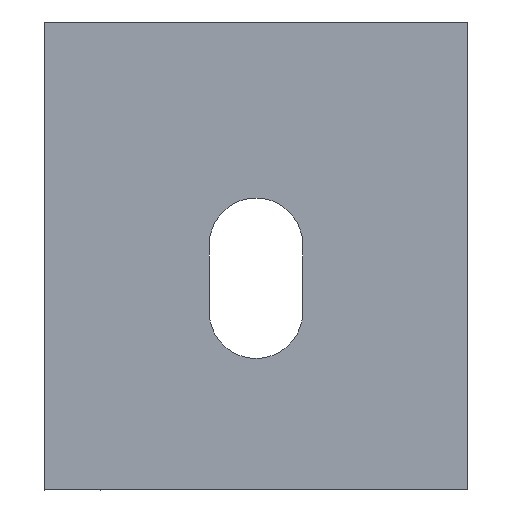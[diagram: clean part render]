
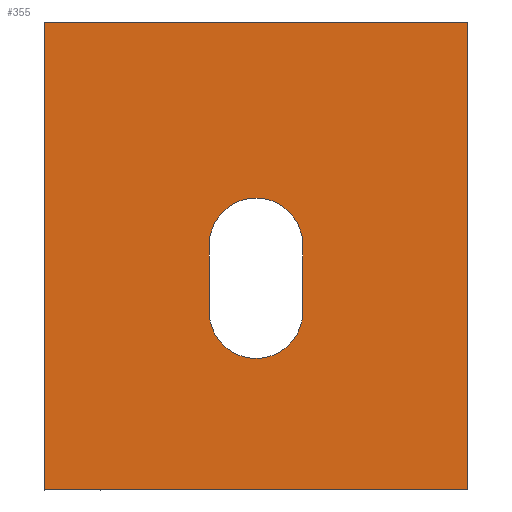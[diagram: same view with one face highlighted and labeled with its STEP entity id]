
A CAD part, left-side view. The second image highlights one B-rep face of the part: STEP entity #355.
In plain terms, the highlighted planar face has unit normal (-1, 0, 0).
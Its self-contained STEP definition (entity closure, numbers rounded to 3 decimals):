
#3 = CARTESIAN_POINT ( 'NONE',  ( -5., -33., 0. ) ) ;
#5 = DIRECTION ( 'NONE',  ( 1., 0., 0. ) ) ;
#8 = EDGE_CURVE ( 'NONE', #860, #615, #790, .T. ) ;
#28 = VERTEX_POINT ( 'NONE', #158 ) ;
#41 = EDGE_CURVE ( 'NONE', #667, #297, #75, .T. ) ;
#74 = DIRECTION ( 'NONE',  ( 1., 0., 0. ) ) ;
#75 = LINE ( 'NONE', #573, #510 ) ;
#80 = CARTESIAN_POINT ( 'NONE',  ( -5., -9.8, -21. ) ) ;
#86 = CARTESIAN_POINT ( 'NONE',  ( -5., -9.8, -15. ) ) ;
#92 = FACE_BOUND ( 'NONE', #646, .T. ) ;
#97 = CARTESIAN_POINT ( 'NONE',  ( -5., -33., 5. ) ) ;
#101 = EDGE_LOOP ( 'NONE', ( #695, #350, #113, #803 ) ) ;
#107 = DIRECTION ( 'NONE',  ( 0., -1., 0. ) ) ;
#113 = ORIENTED_EDGE ( 'NONE', *, *, #843, .T. ) ;
#148 = LINE ( 'NONE', #266, #742 ) ;
#150 = DIRECTION ( 'NONE',  ( 0., 0., -1. ) ) ;
#155 = CARTESIAN_POINT ( 'NONE',  ( -5., -18.2, -21. ) ) ;
#158 = CARTESIAN_POINT ( 'NONE',  ( -5., 5., 5. ) ) ;
#159 = EDGE_CURVE ( 'NONE', #28, #624, #466, .T. ) ;
#161 = EDGE_CURVE ( 'NONE', #222, #639, #252, .T. ) ;
#222 = VERTEX_POINT ( 'NONE', #613 ) ;
#230 = DIRECTION ( 'NONE',  ( 0., -1., 0. ) ) ;
#252 = LINE ( 'NONE', #661, #277 ) ;
#266 = CARTESIAN_POINT ( 'NONE',  ( -5., -9.8, -21. ) ) ;
#277 = VECTOR ( 'NONE', #601, 1000. ) ;
#289 = VECTOR ( 'NONE', #107, 1000. ) ;
#297 = VERTEX_POINT ( 'NONE', #546 ) ;
#314 = DIRECTION ( 'NONE',  ( 0., 0., -1. ) ) ;
#324 = EDGE_CURVE ( 'NONE', #615, #772, #148, .T. ) ;
#338 = AXIS2_PLACEMENT_3D ( 'NONE', #493, #74, #570 ) ;
#350 = ORIENTED_EDGE ( 'NONE', *, *, #159, .F. ) ;
#355 = ADVANCED_FACE ( 'NONE', ( #92, #798 ), #865, .F. ) ;
#357 = DIRECTION ( 'NONE',  ( 1., 0., 0. ) ) ;
#364 = CARTESIAN_POINT ( 'NONE',  ( -5., -14., -21. ) ) ;
#372 = AXIS2_PLACEMENT_3D ( 'NONE', #364, #506, #513 ) ;
#373 = VECTOR ( 'NONE', #422, 1000. ) ;
#390 = CARTESIAN_POINT ( 'NONE',  ( -5., -14., -25.2 ) ) ;
#394 = ORIENTED_EDGE ( 'NONE', *, *, #324, .T. ) ;
#403 = ORIENTED_EDGE ( 'NONE', *, *, #8, .T. ) ;
#405 = DIRECTION ( 'NONE',  ( 0., 0., -1. ) ) ;
#422 = DIRECTION ( 'NONE',  ( 0., 0., 1. ) ) ;
#427 = CARTESIAN_POINT ( 'NONE',  ( -5., -33., 0. ) ) ;
#445 = ORIENTED_EDGE ( 'NONE', *, *, #563, .T. ) ;
#456 = CARTESIAN_POINT ( 'NONE',  ( -5., 5., -37. ) ) ;
#466 = LINE ( 'NONE', #97, #289 ) ;
#492 = ORIENTED_EDGE ( 'NONE', *, *, #161, .T. ) ;
#493 = CARTESIAN_POINT ( 'NONE',  ( -5., -14., -21. ) ) ;
#497 = CARTESIAN_POINT ( 'NONE',  ( -5., -14., -15. ) ) ;
#506 = DIRECTION ( 'NONE',  ( 1., 0., 0. ) ) ;
#510 = VECTOR ( 'NONE', #230, 1000. ) ;
#512 = CARTESIAN_POINT ( 'NONE',  ( -5., 5., -37. ) ) ;
#513 = DIRECTION ( 'NONE',  ( 0., 0., -1. ) ) ;
#521 = EDGE_CURVE ( 'NONE', #297, #624, #796, .T. ) ;
#546 = CARTESIAN_POINT ( 'NONE',  ( -5., -33., -37. ) ) ;
#563 = EDGE_CURVE ( 'NONE', #772, #222, #827, .T. ) ;
#570 = DIRECTION ( 'NONE',  ( 0., 0., -1. ) ) ;
#573 = CARTESIAN_POINT ( 'NONE',  ( -5., -33., -37. ) ) ;
#575 = AXIS2_PLACEMENT_3D ( 'NONE', #3, #5, #405 ) ;
#581 = EDGE_CURVE ( 'NONE', #639, #860, #668, .T. ) ;
#601 = DIRECTION ( 'NONE',  ( 0., 0., -1. ) ) ;
#613 = CARTESIAN_POINT ( 'NONE',  ( -5., -18.2, -15. ) ) ;
#615 = VERTEX_POINT ( 'NONE', #80 ) ;
#624 = VERTEX_POINT ( 'NONE', #823 ) ;
#628 = AXIS2_PLACEMENT_3D ( 'NONE', #497, #357, #150 ) ;
#629 = LINE ( 'NONE', #456, #671 ) ;
#639 = VERTEX_POINT ( 'NONE', #155 ) ;
#646 = EDGE_LOOP ( 'NONE', ( #492, #758, #403, #394, #445 ) ) ;
#661 = CARTESIAN_POINT ( 'NONE',  ( -5., -18.2, -15. ) ) ;
#667 = VERTEX_POINT ( 'NONE', #512 ) ;
#668 = CIRCLE ( 'NONE', #338, 4.2 ) ;
#671 = VECTOR ( 'NONE', #314, 1000. ) ;
#695 = ORIENTED_EDGE ( 'NONE', *, *, #521, .T. ) ;
#742 = VECTOR ( 'NONE', #805, 1000. ) ;
#758 = ORIENTED_EDGE ( 'NONE', *, *, #581, .T. ) ;
#772 = VERTEX_POINT ( 'NONE', #86 ) ;
#790 = CIRCLE ( 'NONE', #372, 4.2 ) ;
#796 = LINE ( 'NONE', #427, #373 ) ;
#798 = FACE_OUTER_BOUND ( 'NONE', #101, .T. ) ;
#803 = ORIENTED_EDGE ( 'NONE', *, *, #41, .T. ) ;
#805 = DIRECTION ( 'NONE',  ( 0., 0., 1. ) ) ;
#823 = CARTESIAN_POINT ( 'NONE',  ( -5., -33., 5. ) ) ;
#827 = CIRCLE ( 'NONE', #628, 4.2 ) ;
#843 = EDGE_CURVE ( 'NONE', #28, #667, #629, .T. ) ;
#860 = VERTEX_POINT ( 'NONE', #390 ) ;
#865 = PLANE ( 'NONE',  #575 ) ;
